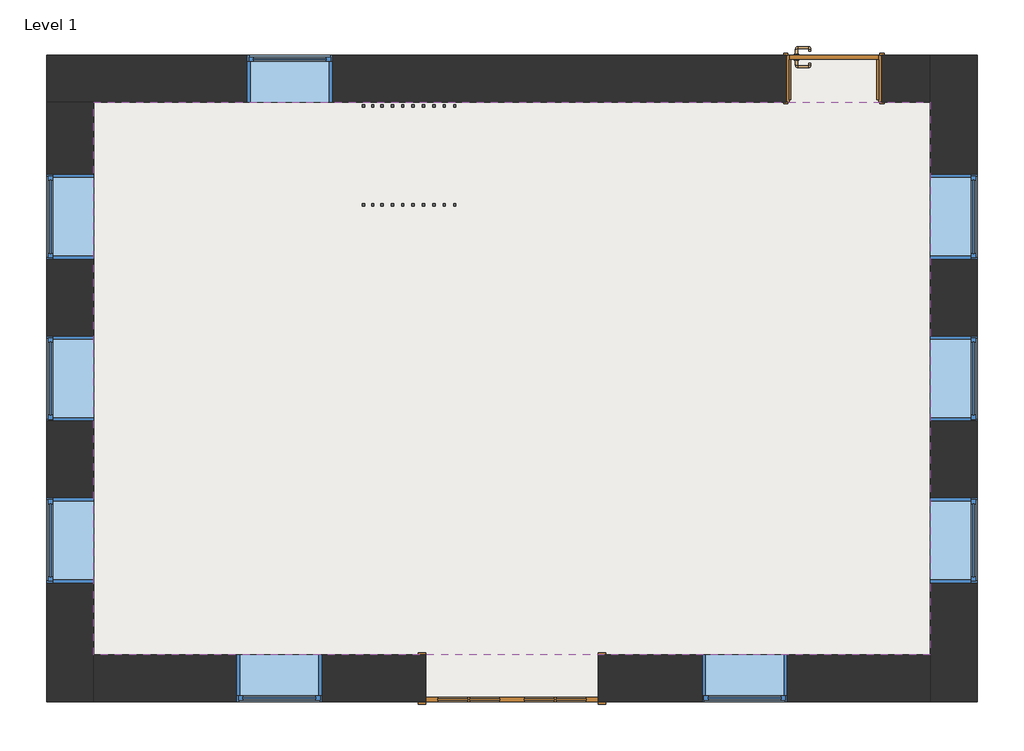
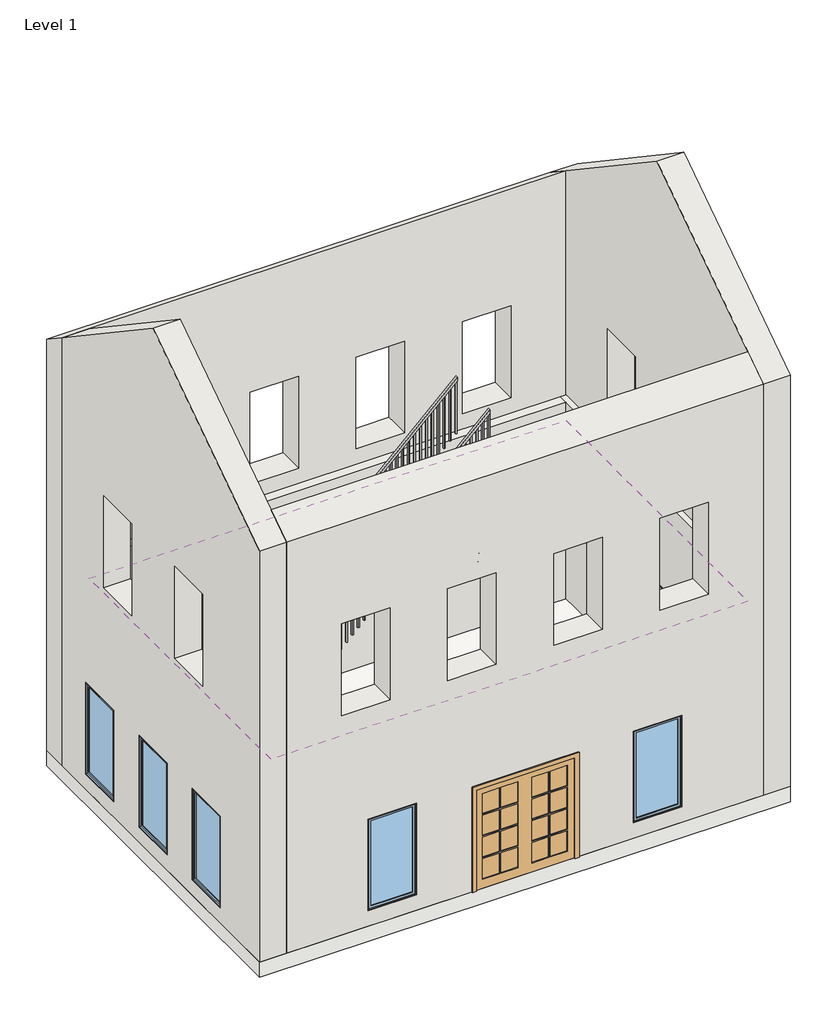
# One storey: 9 windows, 4 walls, 2 doors, 2 railings, 1 covering, 1 slab.
"""IFC4 building model written with IfcOpenShell, lengths in millimetres."""

from ifc_helpers import new_model, si_unit, frame, origin, place, context, project, spatial, polyline, outline, extrude, faceted_brep, transform, mapped, element, save
from components import m_double_glass_2_1830_x_1981mm_a8427099, uk_single_flush_so_1010x2110_7000c3c9, railing_1100mm_788f7067, railing_1100mm_152d8a1c, m_fixed_900_x_1800mm_11eb3af6

model = new_model("IFC4")

# Units and contexts
model_context = context("Model", 3, world=origin())
ifc_project = project(units=[si_unit("LENGTHUNIT", "METRE", prefix="MILLI")], contexts=[model_context])

# Site, building, storey
site = spatial("IfcSite", under=ifc_project)
building = spatial("IfcBuilding", under=site)
storey = spatial("IfcBuildingStorey", under=building, Name="Level 1", Elevation=0.0)

# Covering
placement = place(None, origin())
element("IfcCovering", 1, ObjectType="Plain", at=placement, inside=storey, context=model_context, shape_type="SweptSolid", body=[
    extrude(outline(polyline([(-3110.0128661, 3874.9134487), (5741.9871339, 3874.9134487), (5741.9871339, -1977.0865513), (-3110.0128661, -1977.0865513), (-3110.0128661, 3874.9134487)])), frame((0.0, 0.0, 3500.0), z_axis=(0.0, 0.0, 1.0), x_axis=(1.0, 0.0, 0.0)), (0.0, 0.0, 1.0), 110.0),
])

# Doors
m_double_glass_2_1830_x_1981mm_shape = m_double_glass_2_1830_x_1981mm_a8427099(model_context)
element("IfcDoor", 2, ObjectType="M_Double-Glass 2 : 1830 x 1981mm", at=placement, inside=storey, context=model_context, shape_type="MappedRepresentation", body=[
    mapped(m_double_glass_2_1830_x_1981mm_shape, transform((1315.9871339, -2226.0865513, 0.0), x_axis=(-1.0, 0.0, 0.0), y_axis=(0.0, -1.0, 0.0), z_axis=(0.0, 0.0, 1.0))),
])
uk_single_flush_so_1010x2110_shape = uk_single_flush_so_1010x2110_7000c3c9(model_context)
element("IfcDoor", 3, ObjectType="UK_Single-Flush : SO 1010x2110", at=placement, inside=storey, context=model_context, shape_type="MappedRepresentation", body=[
    mapped(uk_single_flush_so_1010x2110_shape, transform((4720.9871339, 4123.9134487, 0.0), x_axis=(1.0, 0.0, 0.0), y_axis=(0.0, 1.0, 0.0), z_axis=(0.0, 0.0, 1.0))),
])

# Railings
railing_1100mm_shape = railing_1100mm_788f7067(model_context)
element("IfcRailing", 4, ObjectType="1100mm", at=placement, inside=storey, context=model_context, shape_type="MappedRepresentation", body=[
    mapped(railing_1100mm_shape, transform((0.0, 0.0, 0.0), x_axis=(1.0, 0.0, 0.0), y_axis=(0.0, 1.0, 0.0), z_axis=(0.0, 0.0, 1.0))),
])
railing_1100mm_2_shape = railing_1100mm_152d8a1c(model_context)
element("IfcRailing", 5, ObjectType="1100mm", at=placement, inside=storey, context=model_context, shape_type="MappedRepresentation", body=[
    mapped(railing_1100mm_2_shape, transform((0.0, 0.0, 0.0), x_axis=(1.0, 0.0, 0.0), y_axis=(0.0, 1.0, 0.0), z_axis=(0.0, 0.0, 1.0))),
])

# Slab
element("IfcSlab", 6, ObjectType="Generic 300mm", at=placement, inside=storey, context=model_context, shape_type="SweptSolid", body=[
    extrude(outline(polyline([(-3608.0128661, 4372.9134487), (6239.9871339, 4372.9134487), (6239.9871339, -2475.0865513), (-3608.0128661, -2475.0865513), (-3608.0128661, 4372.9134487)])), frame((0.0, 0.0, -300.0), z_axis=(0.0, 0.0, 1.0), x_axis=(1.0, 0.0, 0.0)), (0.0, 0.0, 1.0), 300.0),
])

# Walls
element("IfcWall", 7, ObjectType="Exterior - Brick on Mtl. Stud", at=placement, inside=storey, context=model_context, shape_type="Brep", body=[
    faceted_brep([(-3608.0128661, 3874.9134487, 8389.3446841), (-3608.0128661, 3874.9134487, 0.0), (-3110.0128661, 3874.9134487, 0.0), (4215.9871339, 3874.9134487, 0.0), (4215.9871339, 3874.9134487, 2110.0), (5225.9871339, 3874.9134487, 2110.0), (5225.9871339, 3874.9134487, 0.0), (5741.9871339, 3874.9134487, 0.0), (5741.9871339, 3874.9134487, 3850.0), (-3110.0128661, 3874.9134487, 3850.0), (-3423.0128661, 3874.9134487, 3850.0), (-3423.0128661, 3874.9134487, 4000.0), (-3110.0128661, 3874.9134487, 4000.0), (5741.9871339, 3874.9134487, 4000.0), (5741.9871339, 3874.9134487, 8389.3446841), (-3110.0128661, 3874.9134487, 8389.3446841), (-1484.0128661, 3874.9134487, 2100.0), (-584.0128661, 3874.9134487, 2100.0), (-584.0128661, 3874.9134487, 300.0), (-1484.0128661, 3874.9134487, 300.0), (-2088.4128661, 3874.9134487, 4300.0), (-2088.4128661, 3874.9134487, 6100.0), (-1188.4128661, 3874.9134487, 6100.0), (-1188.4128661, 3874.9134487, 4300.0), (-118.8128661, 3874.9134487, 4300.0), (-118.8128661, 3874.9134487, 6100.0), (781.1871339, 3874.9134487, 6100.0), (781.1871339, 3874.9134487, 4300.0), (1850.7871339, 3874.9134487, 4300.0), (1850.7871339, 3874.9134487, 6100.0), (2750.7871339, 3874.9134487, 6100.0), (2750.7871339, 3874.9134487, 4300.0), (3820.3871339, 3874.9134487, 4300.0), (3820.3871339, 3874.9134487, 6100.0), (4720.3871339, 3874.9134487, 6100.0), (4720.3871339, 3874.9134487, 4300.0), (-3608.0128661, 4372.9134487, 0.0), (-3608.0128661, 4372.9134487, 8055.6416667), (5741.9871339, 4372.9134487, 8055.6416667), (5741.9871339, 4372.9134487, 0.0), (5225.9871339, 4372.9134487, 0.0), (5225.9871339, 4372.9134487, 2110.0), (4215.9871339, 4372.9134487, 2110.0), (4215.9871339, 4372.9134487, 0.0), (-584.0128661, 4372.9134487, 2100.0), (-1484.0128661, 4372.9134487, 2100.0), (-1484.0128661, 4372.9134487, 300.0), (-584.0128661, 4372.9134487, 300.0), (-2088.4128661, 4372.9134487, 6100.0), (-2088.4128661, 4372.9134487, 4300.0), (-1188.4128661, 4372.9134487, 4300.0), (-1188.4128661, 4372.9134487, 6100.0), (-118.8128661, 4372.9134487, 6100.0), (-118.8128661, 4372.9134487, 4300.0), (781.1871339, 4372.9134487, 4300.0), (781.1871339, 4372.9134487, 6100.0), (1850.7871339, 4372.9134487, 6100.0), (1850.7871339, 4372.9134487, 4300.0), (2750.7871339, 4372.9134487, 4300.0), (2750.7871339, 4372.9134487, 6100.0), (3820.3871339, 4372.9134487, 6100.0), (3820.3871339, 4372.9134487, 4300.0), (4720.3871339, 4372.9134487, 4300.0), (4720.3871339, 4372.9134487, 6100.0), (5741.9871339, 4187.9134487, 4000.0), (5741.9871339, 4187.9134487, 3850.0), (-3423.0128661, 4187.9134487, 3850.0), (-3423.0128661, 4187.9134487, 4000.0)], [[[0, 1, 2, 3, 4, 5, 6, 7, 8, 9, 10, 11, 12, 13, 14, 15], [16, 17, 18, 19], [20, 21, 22, 23], [24, 25, 26, 27], [28, 29, 30, 31], [32, 33, 34, 35]], [[36, 37, 38, 39, 40, 41, 42, 43], [44, 45, 46, 47], [48, 49, 50, 51], [52, 53, 54, 55], [56, 57, 58, 59], [60, 61, 62, 63]], [[1, 36, 43, 3, 2]], [[39, 7, 6, 40]], [[1, 0, 37, 36]], [[7, 39, 38, 14, 13, 64, 65, 8]], [[0, 15, 14, 38, 37]], [[45, 16, 19, 46]], [[16, 45, 44, 17]], [[17, 44, 47, 18]], [[18, 47, 46, 19]], [[41, 40, 6, 5]], [[42, 41, 5, 4]], [[43, 42, 4, 3]], [[21, 20, 49, 48]], [[22, 21, 48, 51]], [[23, 22, 51, 50]], [[20, 23, 50, 49]], [[25, 24, 53, 52]], [[26, 25, 52, 55]], [[27, 26, 55, 54]], [[24, 27, 54, 53]], [[29, 28, 57, 56]], [[30, 29, 56, 59]], [[31, 30, 59, 58]], [[28, 31, 58, 57]], [[33, 32, 61, 60]], [[34, 33, 60, 63]], [[35, 34, 63, 62]], [[32, 35, 62, 61]], [[66, 10, 9, 8, 65]], [[67, 64, 13, 12, 11]], [[67, 66, 65, 64]], [[66, 67, 11, 10]]]),
])
element("IfcWall", 8, ObjectType="Exterior - Brick on Mtl. Stud", at=placement, inside=storey, context=model_context, shape_type="Brep", body=[
    faceted_brep([(-3110.0128661, -2475.0865513, 0.0), (-3110.0128661, -1977.0865513, 0.0), (-3110.0128661, 3874.9134487, 0.0), (-3110.0128661, 3874.9134487, 3850.0), (-3110.0128661, -1977.0865513, 3850.0), (-3110.0128661, -2290.0865513, 3850.0), (-3110.0128661, -2290.0865513, 4000.0), (-3110.0128661, -1977.0865513, 4000.0), (-3110.0128661, 3874.9134487, 4000.0), (-3110.0128661, 3874.9134487, 8389.3446841), (-3110.0128661, 948.9134487, 10350.0174331), (-3110.0128661, -1977.0865513, 8389.3446841), (-3110.0128661, -2475.0865513, 8055.6416667), (-3110.0128661, 2210.9134487, 300.0), (-3110.0128661, 2210.9134487, 2100.0), (-3110.0128661, 3110.9134487, 2100.0), (-3110.0128661, 3110.9134487, 300.0), (-3110.0128661, 498.9134487, 300.0), (-3110.0128661, 498.9134487, 2100.0), (-3110.0128661, 1398.9134487, 2100.0), (-3110.0128661, 1398.9134487, 300.0), (-3110.0128661, -1213.0865513, 300.0), (-3110.0128661, -1213.0865513, 2100.0), (-3110.0128661, -313.0865513, 2100.0), (-3110.0128661, -313.0865513, 300.0), (-3110.0128661, 1640.246782, 4300.0), (-3110.0128661, 1640.246782, 6100.0), (-3110.0128661, 2540.246782, 6100.0), (-3110.0128661, 2540.246782, 4300.0), (-3110.0128661, -642.4198846, 4300.0), (-3110.0128661, -642.4198846, 6100.0), (-3110.0128661, 257.5801154, 6100.0), (-3110.0128661, 257.5801154, 4300.0), (-3608.0128661, 3874.9134487, 0.0), (-3608.0128661, -2475.0865513, 0.0), (-3608.0128661, -2475.0865513, 8055.6416667), (-3608.0128661, 948.9134487, 10350.0174331), (-3608.0128661, 3874.9134487, 8389.3446841), (-3608.0128661, 2210.9134487, 2100.0), (-3608.0128661, 2210.9134487, 300.0), (-3608.0128661, 3110.9134487, 300.0), (-3608.0128661, 3110.9134487, 2100.0), (-3608.0128661, 498.9134487, 2100.0), (-3608.0128661, 498.9134487, 300.0), (-3608.0128661, 1398.9134487, 300.0), (-3608.0128661, 1398.9134487, 2100.0), (-3608.0128661, -1213.0865513, 2100.0), (-3608.0128661, -1213.0865513, 300.0), (-3608.0128661, -313.0865513, 300.0), (-3608.0128661, -313.0865513, 2100.0), (-3608.0128661, 1640.246782, 6100.0), (-3608.0128661, 1640.246782, 4300.0), (-3608.0128661, 2540.246782, 4300.0), (-3608.0128661, 2540.246782, 6100.0), (-3608.0128661, -642.4198846, 6100.0), (-3608.0128661, -642.4198846, 4300.0), (-3608.0128661, 257.5801154, 4300.0), (-3608.0128661, 257.5801154, 6100.0), (-3423.0128661, 3874.9134487, 4000.0), (-3423.0128661, 3874.9134487, 3850.0), (-3423.0128661, -2290.0865513, 3850.0), (-3423.0128661, -2290.0865513, 4000.0)], [[[0, 1, 2, 3, 4, 5, 6, 7, 8, 9, 10, 11, 12], [13, 14, 15, 16], [17, 18, 19, 20], [21, 22, 23, 24], [25, 26, 27, 28], [29, 30, 31, 32]], [[33, 34, 35, 36, 37], [38, 39, 40, 41], [42, 43, 44, 45], [46, 47, 48, 49], [50, 51, 52, 53], [54, 55, 56, 57]], [[2, 1, 0, 34, 33]], [[0, 12, 35, 34]], [[2, 33, 37, 9, 8, 58, 59, 3]], [[35, 12, 11, 10, 36]], [[9, 37, 36, 10]], [[14, 13, 39, 38]], [[15, 14, 38, 41]], [[16, 15, 41, 40]], [[13, 16, 40, 39]], [[18, 17, 43, 42]], [[19, 18, 42, 45]], [[20, 19, 45, 44]], [[17, 20, 44, 43]], [[22, 21, 47, 46]], [[23, 22, 46, 49]], [[24, 23, 49, 48]], [[21, 24, 48, 47]], [[26, 25, 51, 50]], [[27, 26, 50, 53]], [[28, 27, 53, 52]], [[25, 28, 52, 51]], [[30, 29, 55, 54]], [[31, 30, 54, 57]], [[32, 31, 57, 56]], [[29, 32, 56, 55]], [[59, 60, 5, 4, 3]], [[6, 61, 58, 8, 7]], [[60, 61, 6, 5]], [[61, 60, 59, 58]]]),
])
element("IfcWall", 9, ObjectType="Exterior - Brick on Mtl. Stud", at=placement, inside=storey, context=model_context, shape_type="Brep", body=[
    faceted_brep([(-3110.0128661, -1977.0865513, 8389.3446841), (5741.9871339, -1977.0865513, 8389.3446841), (5741.9871339, -1977.0865513, 4000.0), (-3110.0128661, -1977.0865513, 4000.0), (-1188.4128661, -1977.0865513, 4300.0), (-1188.4128661, -1977.0865513, 6100.0), (-2088.4128661, -1977.0865513, 6100.0), (-2088.4128661, -1977.0865513, 4300.0), (781.1871339, -1977.0865513, 4300.0), (781.1871339, -1977.0865513, 6100.0), (-118.8128661, -1977.0865513, 6100.0), (-118.8128661, -1977.0865513, 4300.0), (2750.7871339, -1977.0865513, 4300.0), (2750.7871339, -1977.0865513, 6100.0), (1850.7871339, -1977.0865513, 6100.0), (1850.7871339, -1977.0865513, 4300.0), (3820.3871339, -1977.0865513, 6100.0), (3820.3871339, -1977.0865513, 4300.0), (4720.3871339, -1977.0865513, 4300.0), (4720.3871339, -1977.0865513, 6100.0), (400.9871339, -1977.0865513, 1981.0), (400.9871339, -1977.0865513, 0.0), (-3110.0128661, -1977.0865513, 0.0), (-3110.0128661, -1977.0865513, 3850.0), (5741.9871339, -1977.0865513, 3850.0), (5741.9871339, -1977.0865513, 0.0), (2230.9871339, -1977.0865513, 0.0), (2230.9871339, -1977.0865513, 1981.0), (-696.0128661, -1977.0865513, 300.0), (-696.0128661, -1977.0865513, 2100.0), (-1596.0128661, -1977.0865513, 2100.0), (-1596.0128661, -1977.0865513, 300.0), (4227.9871339, -1977.0865513, 300.0), (4227.9871339, -1977.0865513, 2100.0), (3327.9871339, -1977.0865513, 2100.0), (3327.9871339, -1977.0865513, 300.0), (-3110.0128661, -2475.0865513, 8055.6416667), (-3110.0128661, -2475.0865513, 0.0), (400.9871339, -2475.0865513, 0.0), (400.9871339, -2475.0865513, 1981.0), (2230.9871339, -2475.0865513, 1981.0), (2230.9871339, -2475.0865513, 0.0), (5741.9871339, -2475.0865513, 0.0), (5741.9871339, -2475.0865513, 8055.6416667), (-696.0128661, -2475.0865513, 2100.0), (-696.0128661, -2475.0865513, 300.0), (-1596.0128661, -2475.0865513, 300.0), (-1596.0128661, -2475.0865513, 2100.0), (4227.9871339, -2475.0865513, 2100.0), (4227.9871339, -2475.0865513, 300.0), (3327.9871339, -2475.0865513, 300.0), (3327.9871339, -2475.0865513, 2100.0), (-1188.4128661, -2475.0865513, 6100.0), (-1188.4128661, -2475.0865513, 4300.0), (-2088.4128661, -2475.0865513, 4300.0), (-2088.4128661, -2475.0865513, 6100.0), (781.1871339, -2475.0865513, 6100.0), (781.1871339, -2475.0865513, 4300.0), (-118.8128661, -2475.0865513, 4300.0), (-118.8128661, -2475.0865513, 6100.0), (2750.7871339, -2475.0865513, 6100.0), (2750.7871339, -2475.0865513, 4300.0), (1850.7871339, -2475.0865513, 4300.0), (1850.7871339, -2475.0865513, 6100.0), (3820.3871339, -2475.0865513, 4300.0), (3820.3871339, -2475.0865513, 6100.0), (4720.3871339, -2475.0865513, 6100.0), (4720.3871339, -2475.0865513, 4300.0), (-3110.0128661, -2290.0865513, 4000.0), (-3110.0128661, -2290.0865513, 3850.0), (5741.9871339, -2290.0865513, 3850.0), (5741.9871339, -2290.0865513, 4000.0)], [[[0, 1, 2, 3], [4, 5, 6, 7], [8, 9, 10, 11], [12, 13, 14, 15], [16, 17, 18, 19]], [[20, 21, 22, 23, 24, 25, 26, 27], [28, 29, 30, 31], [32, 33, 34, 35]], [[36, 37, 38, 39, 40, 41, 42, 43], [44, 45, 46, 47], [48, 49, 50, 51], [52, 53, 54, 55], [56, 57, 58, 59], [60, 61, 62, 63], [64, 65, 66, 67]], [[37, 22, 21, 38]], [[25, 42, 41, 26]], [[22, 37, 36, 0, 3, 68, 69, 23]], [[43, 42, 25, 24, 70, 71, 2, 1]], [[1, 0, 36, 43]], [[29, 28, 45, 44]], [[30, 29, 44, 47]], [[31, 30, 47, 46]], [[28, 31, 46, 45]], [[33, 32, 49, 48]], [[34, 33, 48, 51]], [[35, 34, 51, 50]], [[32, 35, 50, 49]], [[39, 38, 21, 20]], [[40, 39, 20, 27]], [[41, 40, 27, 26]], [[5, 4, 53, 52]], [[6, 5, 52, 55]], [[7, 6, 55, 54]], [[4, 7, 54, 53]], [[9, 8, 57, 56]], [[10, 9, 56, 59]], [[11, 10, 59, 58]], [[8, 11, 58, 57]], [[13, 12, 61, 60]], [[14, 13, 60, 63]], [[15, 14, 63, 62]], [[12, 15, 62, 61]], [[65, 64, 17, 16]], [[66, 65, 16, 19]], [[67, 66, 19, 18]], [[64, 67, 18, 17]], [[69, 70, 24, 23]], [[71, 68, 3, 2]], [[70, 69, 68, 71]]]),
])
element("IfcWall", 10, ObjectType="Exterior - Brick on Mtl. Stud", at=placement, inside=storey, context=model_context, shape_type="Brep", body=[
    faceted_brep([(5741.9871339, 4372.9134487, 0.0), (5741.9871339, 3874.9134487, 0.0), (5741.9871339, -1977.0865513, 0.0), (5741.9871339, -2475.0865513, 0.0), (5741.9871339, -2475.0865513, 8055.6416667), (5741.9871339, -1977.0865513, 8389.3446841), (5741.9871339, 948.9134487, 10350.0174331), (5741.9871339, 3874.9134487, 8389.3446841), (5741.9871339, 4372.9134487, 8055.6416667), (5741.9871339, 3110.9134487, 300.0), (5741.9871339, 3110.9134487, 2100.0), (5741.9871339, 2210.9134487, 2100.0), (5741.9871339, 2210.9134487, 300.0), (5741.9871339, 1398.9134487, 300.0), (5741.9871339, 1398.9134487, 2100.0), (5741.9871339, 498.9134487, 2100.0), (5741.9871339, 498.9134487, 300.0), (5741.9871339, -313.0865513, 300.0), (5741.9871339, -313.0865513, 2100.0), (5741.9871339, -1213.0865513, 2100.0), (5741.9871339, -1213.0865513, 300.0), (5741.9871339, 257.5801154, 4300.0), (5741.9871339, 257.5801154, 6100.0), (5741.9871339, -642.4198846, 6100.0), (5741.9871339, -642.4198846, 4300.0), (5741.9871339, 2540.246782, 4300.0), (5741.9871339, 2540.246782, 6100.0), (5741.9871339, 1640.246782, 6100.0), (5741.9871339, 1640.246782, 4300.0), (5741.9871339, -2290.0865513, 3850.0), (5741.9871339, -1977.0865513, 3850.0), (5741.9871339, 3874.9134487, 3850.0), (5741.9871339, 4187.9134487, 3850.0), (5741.9871339, 4187.9134487, 4000.0), (5741.9871339, 3874.9134487, 4000.0), (5741.9871339, -1977.0865513, 4000.0), (5741.9871339, -2290.0865513, 4000.0), (6239.9871339, -2475.0865513, 0.0), (6239.9871339, 4372.9134487, 0.0), (6239.9871339, 4372.9134487, 8055.6416667), (6239.9871339, 948.9134487, 10350.0174331), (6239.9871339, -2475.0865513, 8055.6416667), (6239.9871339, 3110.9134487, 2100.0), (6239.9871339, 3110.9134487, 300.0), (6239.9871339, 2210.9134487, 300.0), (6239.9871339, 2210.9134487, 2100.0), (6239.9871339, 1398.9134487, 2100.0), (6239.9871339, 1398.9134487, 300.0), (6239.9871339, 498.9134487, 300.0), (6239.9871339, 498.9134487, 2100.0), (6239.9871339, -313.0865513, 2100.0), (6239.9871339, -313.0865513, 300.0), (6239.9871339, -1213.0865513, 300.0), (6239.9871339, -1213.0865513, 2100.0), (6239.9871339, 257.5801154, 6100.0), (6239.9871339, 257.5801154, 4300.0), (6239.9871339, -642.4198846, 4300.0), (6239.9871339, -642.4198846, 6100.0), (6239.9871339, 2540.246782, 6100.0), (6239.9871339, 2540.246782, 4300.0), (6239.9871339, 1640.246782, 4300.0), (6239.9871339, 1640.246782, 6100.0), (6054.9871339, -2290.0865513, 3850.0), (6054.9871339, 4187.9134487, 3850.0), (6054.9871339, 4187.9134487, 4000.0), (6054.9871339, -2290.0865513, 4000.0)], [[[0, 1, 2, 3, 4, 5, 6, 7, 8], [9, 10, 11, 12], [13, 14, 15, 16], [17, 18, 19, 20], [21, 22, 23, 24], [25, 26, 27, 28], [29, 30, 31, 32, 33, 34, 35, 36]], [[37, 38, 39, 40, 41], [42, 43, 44, 45], [46, 47, 48, 49], [50, 51, 52, 53], [54, 55, 56, 57], [58, 59, 60, 61]], [[3, 2, 1, 0, 38, 37]], [[0, 8, 39, 38]], [[4, 3, 37, 41]], [[39, 8, 7, 6, 40]], [[4, 41, 40, 6, 5]], [[10, 9, 43, 42]], [[11, 10, 42, 45]], [[12, 11, 45, 44]], [[9, 12, 44, 43]], [[14, 13, 47, 46]], [[15, 14, 46, 49]], [[16, 15, 49, 48]], [[13, 16, 48, 47]], [[18, 17, 51, 50]], [[19, 18, 50, 53]], [[20, 19, 53, 52]], [[17, 20, 52, 51]], [[22, 21, 55, 54]], [[23, 22, 54, 57]], [[24, 23, 57, 56]], [[21, 24, 56, 55]], [[26, 25, 59, 58]], [[27, 26, 58, 61]], [[28, 27, 61, 60]], [[25, 28, 60, 59]], [[62, 63, 32, 31, 30, 29]], [[64, 65, 36, 35, 34, 33]], [[63, 64, 33, 32]], [[63, 62, 65, 64]], [[65, 62, 29, 36]]]),
])

# Windows
m_fixed_900_x_1800mm_shape = m_fixed_900_x_1800mm_11eb3af6(model_context)
element("IfcWindow", 11, ObjectType="M_Fixed : 900 x 1800mm", at=placement, inside=storey, context=model_context, shape_type="MappedRepresentation", body=[
    mapped(m_fixed_900_x_1800mm_shape, transform((-1146.0128661, -2213.0865513, 0.0), x_axis=(-1.0, 0.0, 0.0), y_axis=(0.0, -1.0, 0.0), z_axis=(0.0, 0.0, 1.0))),
])
element("IfcWindow", 12, ObjectType="M_Fixed : 900 x 1800mm", at=placement, inside=storey, context=model_context, shape_type="MappedRepresentation", body=[
    mapped(m_fixed_900_x_1800mm_shape, transform((3777.9871339, -2213.0865513, 0.0), x_axis=(-1.0, 0.0, 0.0), y_axis=(0.0, -1.0, 0.0), z_axis=(0.0, 0.0, 1.0))),
])
element("IfcWindow", 13, ObjectType="M_Fixed : 900 x 1800mm", at=placement, inside=storey, context=model_context, shape_type="MappedRepresentation", body=[
    mapped(m_fixed_900_x_1800mm_shape, transform((-3346.0128661, 2660.9134487, 0.0), x_axis=(0.0, 1.0, 0.0), y_axis=(-1.0, 0.0, 0.0), z_axis=(0.0, 0.0, 1.0))),
])
element("IfcWindow", 14, ObjectType="M_Fixed : 900 x 1800mm", at=placement, inside=storey, context=model_context, shape_type="MappedRepresentation", body=[
    mapped(m_fixed_900_x_1800mm_shape, transform((-3346.0128661, 948.9134487, 0.0), x_axis=(0.0, 1.0, 0.0), y_axis=(-1.0, 0.0, 0.0), z_axis=(0.0, 0.0, 1.0))),
])
element("IfcWindow", 15, ObjectType="M_Fixed : 900 x 1800mm", at=placement, inside=storey, context=model_context, shape_type="MappedRepresentation", body=[
    mapped(m_fixed_900_x_1800mm_shape, transform((-3346.0128661, -763.0865513, 0.0), x_axis=(0.0, 1.0, 0.0), y_axis=(-1.0, 0.0, 0.0), z_axis=(0.0, 0.0, 1.0))),
])
element("IfcWindow", 16, ObjectType="M_Fixed : 900 x 1800mm", at=placement, inside=storey, context=model_context, shape_type="MappedRepresentation", body=[
    mapped(m_fixed_900_x_1800mm_shape, transform((-1034.0128661, 4110.9134487, 0.0), x_axis=(1.0, 0.0, 0.0), y_axis=(0.0, 1.0, 0.0), z_axis=(0.0, 0.0, 1.0))),
])
element("IfcWindow", 17, ObjectType="M_Fixed : 900 x 1800mm", at=placement, inside=storey, context=model_context, shape_type="MappedRepresentation", body=[
    mapped(m_fixed_900_x_1800mm_shape, transform((5977.9871339, 2660.9134487, 0.0), x_axis=(0.0, -1.0, 0.0), y_axis=(1.0, 0.0, 0.0), z_axis=(0.0, 0.0, 1.0))),
])
element("IfcWindow", 18, ObjectType="M_Fixed : 900 x 1800mm", at=placement, inside=storey, context=model_context, shape_type="MappedRepresentation", body=[
    mapped(m_fixed_900_x_1800mm_shape, transform((5977.9871339, 948.9134487, 0.0), x_axis=(0.0, -1.0, 0.0), y_axis=(1.0, 0.0, 0.0), z_axis=(0.0, 0.0, 1.0))),
])
element("IfcWindow", 19, ObjectType="M_Fixed : 900 x 1800mm", at=placement, inside=storey, context=model_context, shape_type="MappedRepresentation", body=[
    mapped(m_fixed_900_x_1800mm_shape, transform((5977.9871339, -763.0865513, 0.0), x_axis=(0.0, -1.0, 0.0), y_axis=(1.0, 0.0, 0.0), z_axis=(0.0, 0.0, 1.0))),
])

save(model, "model.ifc")
